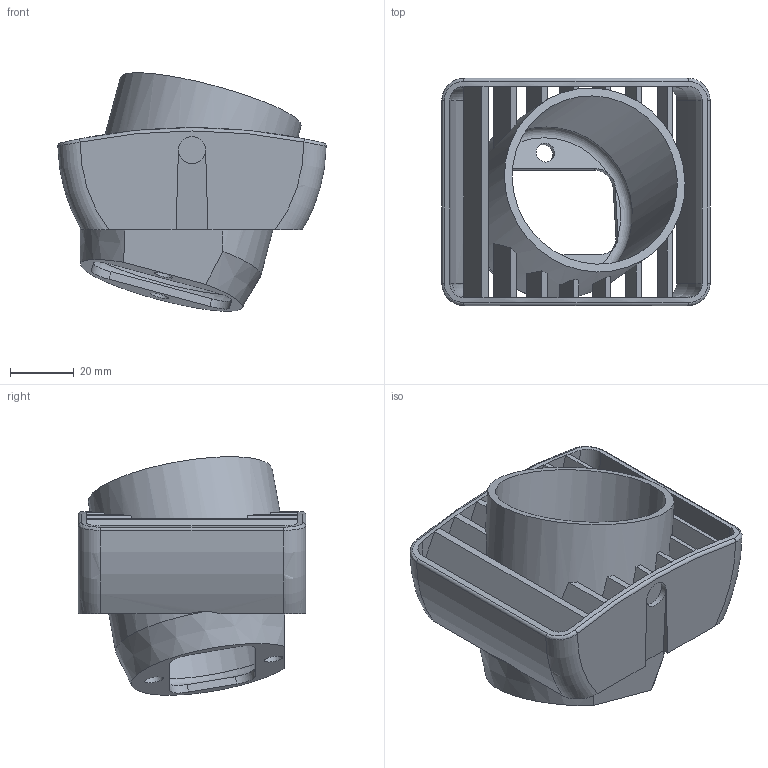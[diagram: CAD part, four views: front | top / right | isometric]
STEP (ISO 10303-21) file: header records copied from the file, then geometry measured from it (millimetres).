
FILE_DESCRIPTION(/* description */ (''),/* implementation_level */ '2;1');
FILE_NAME(/* name */ 'E:/models/Ventpod v15.step',/* time_stamp */ '2021-04-03T08:18:19-06:00',/* author */ (''),/* organization */ (''),/* preprocessor_version */ 'ST-DEVELOPER v18.1',/* originating_system */ 'Autodesk Translation Framework v9.10.0.1330',/* authorisation */ '');
FILE_SCHEMA (('AUTOMOTIVE_DESIGN { 1 0 10303 214 3 1 1 }'));
Length unit declared in the file: millimetre
Products named in the file (2): Ventpod; ventpod_1
Assembly tree (1 placements, depth 2):
  Ventpod
    ventpod_1
Bounding box: 83.99 x 71.2 x 74.64 mm (x, y, z)
Volume: 49368.9 mm3; surface area: 45590.8 mm2
Topology: 1 solids, 1 shells, 130 faces, 368 edges, 223 vertices
Faces by surface type: plane 97, cylinder 17, torus 11, bspline 4, cone 1
Full cylindrical faces by diameter (mm): 6 x2, 8.5 x1, 53.5 x1, 58.5 x1
Entity records: 4680 total; most frequent: CARTESIAN_POINT 1174, DIRECTION 745, ORIENTED_EDGE 736, EDGE_CURVE 368, AXIS2_PLACEMENT_3D 284, VERTEX_POINT 223, LINE 177, VECTOR 177
